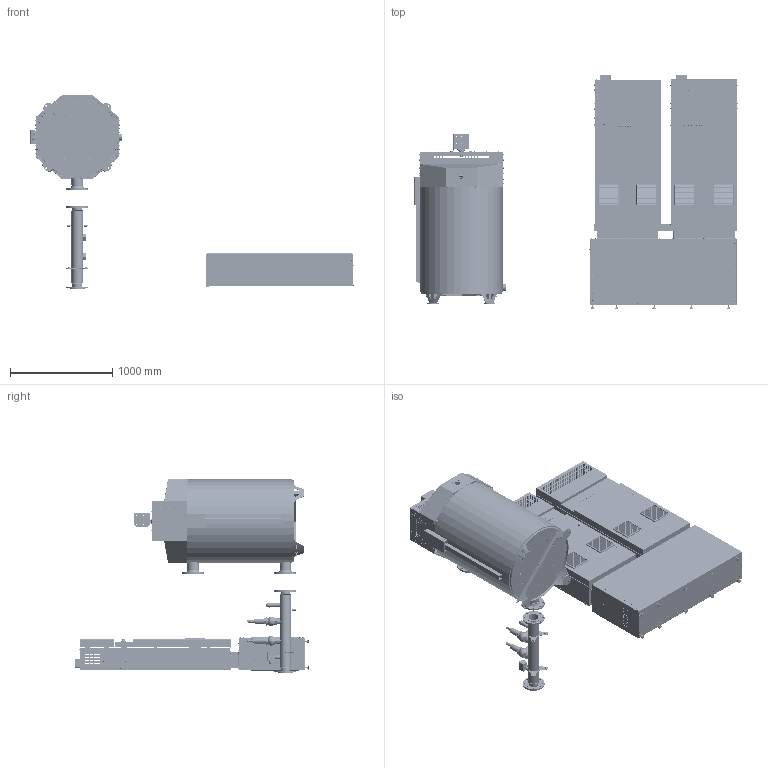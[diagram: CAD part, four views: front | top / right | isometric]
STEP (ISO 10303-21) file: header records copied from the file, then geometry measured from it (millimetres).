
FILE_DESCRIPTION(/* description */ (''),/* implementation_level */ '2;1');
FILE_NAME(/* name */ 'Z:\!!!Обмен файлами\Маркелова Л.В\Задача 144\750-1000\Электрокотёл 750-1000 кВт 1.stp',/* time_stamp */ '2022-12-02T14:36:39+03:00',/* author */ ('nvsk-constr2'),/* organization */ (''),/* preprocessor_version */ 'ST-DEVELOPER v18.1',/* originating_system */ 'Autodesk Inventor 2021',/* authorisation */ '');
FILE_SCHEMA (('AUTOMOTIVE_DESIGN { 1 0 10303 214 3 1 1 }'));
Products named in the file (1): Сборка1_Shrinkwrap_1
Bounding box: 3159.95 x 2287.5 x 1892 mm (x, y, z)
Surface area: 39380910.9 mm2
Topology: 5 solids, 917 shells, 9653 faces, 37988 edges, 27744 vertices
Faces by surface type: plane 5659, cylinder 2792, cone 768, torus 195, bspline 120, sphere 119
Full cylindrical faces by diameter (mm): 3.242 x2, 3.3 x2, 3.5 x14, 4 x14, 4.5 x2, 5 x37, 5.459 x6, 5.5 x4, 6 x43, 6.5 x18, 6.647 x13, 7 x47, 7.119 x1, 8 x13, 8.376 x24, 8.5 x4, 8.7 x16, 8.8 x9, 8.88 x18, 9 x78, 9.936 x2, 10 x11, 10.9 x1, 11 x45, 11.5 x12, 11.63 x3, 12 x48, 13 x57, 13.5 x8, 13.562 x1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
Entity records: 425351 total; most frequent: CARTESIAN_POINT 92411, DIRECTION 68394, ORIENTED_EDGE 58860, EDGE_CURVE 37987, VERTEX_POINT 27744, AXIS2_PLACEMENT_3D 23318, LINE 21758, VECTOR 21758
